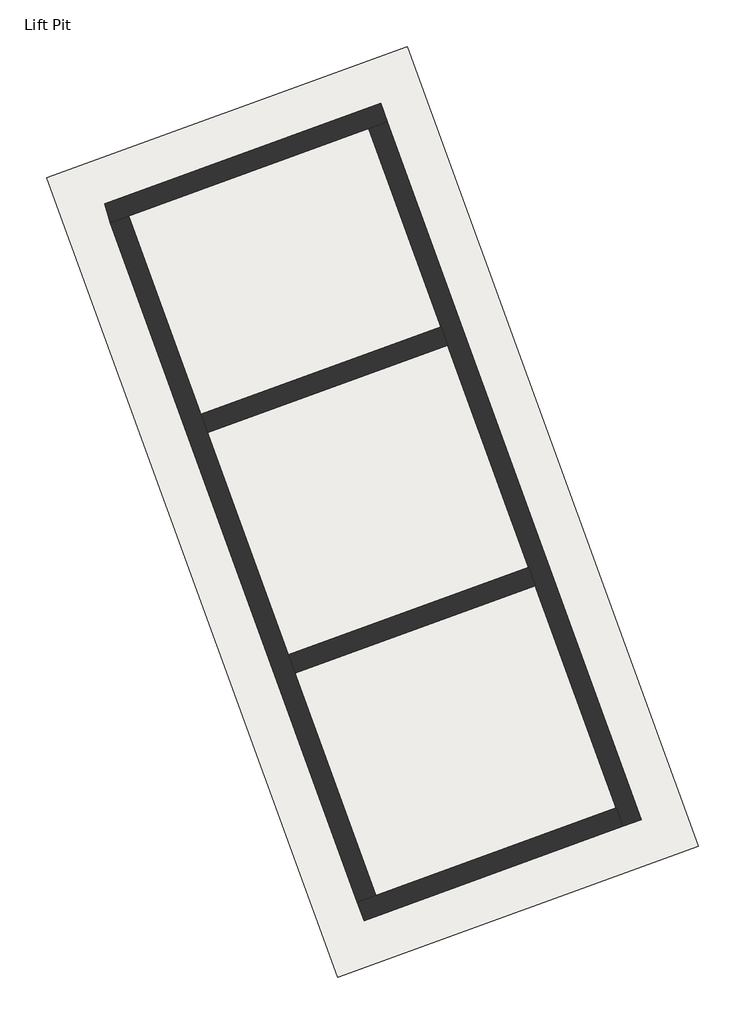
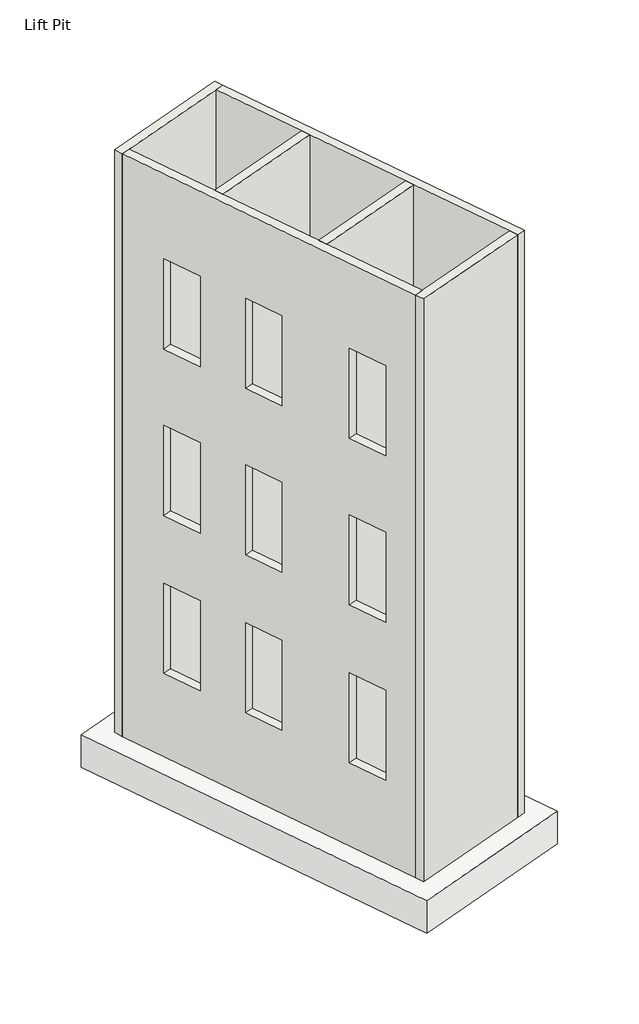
# One storey: 6 walls, 1 slab.
"""IFC4 building model written with IfcOpenShell, lengths in millimetres."""

from ifc_helpers import new_model, si_unit, frame, origin, place, context, project, spatial, polyline, outline, extrude, faceted_brep, element, save

model = new_model("IFC4")

# Units and contexts
model_context = context("Model", 3, world=origin())
ifc_project = project(units=[si_unit("LENGTHUNIT", "METRE", prefix="MILLI")], contexts=[model_context])

# Site, building, storey
site = spatial("IfcSite", under=ifc_project)
building = spatial("IfcBuilding", under=site)
storey = spatial("IfcBuildingStorey", under=building, Name="Lift Pit", Elevation=-1950.0)

# Slab
placement = place(None, origin())
element("IfcSlab", 1, ObjectType="30\" RC SLAB", at=placement, inside=storey, context=model_context, shape_type="SweptSolid", body=[
    extrude(outline(polyline([(38224.7247183, 10390.2706294), (41182.0702914, 2265.0304453), (37517.2690702, 931.1518864), (34559.9234972, 9056.3920706), (38224.7247183, 10390.2706294)])), frame((0.0, 0.0, -2712.0), z_axis=(0.0, 0.0, 1.0), x_axis=(1.0, 0.0, 0.0)), (0.0, 0.0, 1.0), 762.0),
])

# Walls
element("IfcWall", 2, ObjectType="RC WALL 200", at=placement, inside=storey, context=model_context, shape_type="Brep", body=[
    faceted_brep([(35205.0982701, 8599.5009317, -1950.0), (35393.0367939, 8667.9049602, -1950.0), (37836.2376079, 9557.1573328, -1950.0), (38024.1761321, 9625.5613614, -1950.0), (38024.1761321, 9625.5613614, 11700.0), (37836.2376079, 9557.1573328, 11700.0), (35393.0367939, 8667.9049602, 11700.0), (35205.0982701, 8599.5009317, 11700.0), (35153.1367317, 8793.4240329, -1950.0), (35153.1367317, 8793.4240329, 11700.0), (37955.7721034, 9813.4998856, 11700.0), (37955.7721034, 9813.4998856, -1950.0)], [[[0, 1, 2, 3, 4, 5, 6, 7]], [[8, 9, 10, 11]], [[3, 2, 1, 0, 8, 11]], [[7, 6, 5, 4, 10, 9]], [[0, 7, 9, 8]], [[4, 3, 11, 10]]]),
])
element("IfcWall", 3, ObjectType="RC WALL 200", at=placement, inside=storey, context=model_context, shape_type="Brep", body=[
    faceted_brep([(37836.2376079, 9557.1573328, -1950.0), (38570.0121342, 7541.1283909, -1950.0), (38638.4161628, 7353.1898667, -1950.0), (39459.2645067, 5097.9275768, -1950.0), (39527.6685354, 4909.9890526, -1950.0), (40348.9569947, 2653.5175556, -1950.0), (40417.3610234, 2465.5790315, -1950.0), (40417.3610234, 2465.5790315, 11700.0), (40348.9569947, 2653.5175556, 11700.0), (39527.6685354, 4909.9890526, 11700.0), (39459.2645067, 5097.9275768, 11700.0), (38638.4161628, 7353.1898667, 11700.0), (38570.0121342, 7541.1283909, 11700.0), (37836.2376079, 9557.1573328, 11700.0), (38024.1761321, 9625.5613614, -1950.0), (38024.1761321, 9625.5613614, 11700.0), (40605.2995475, 2533.9830601, 11700.0), (40605.2995475, 2533.9830601, -1950.0)], [[[0, 1, 2, 3, 4, 5, 6, 7, 8, 9, 10, 11, 12, 13]], [[14, 15, 16, 17]], [[6, 5, 4, 3, 2, 1, 0, 14, 17]], [[13, 12, 11, 10, 9, 8, 7, 16, 15]], [[0, 13, 15, 14]], [[7, 6, 17, 16]]]),
])
element("IfcWall", 4, ObjectType="RC WALL 200", at=placement, inside=storey, context=model_context, shape_type="Brep", body=[
    faceted_brep([(40348.9569947, 2653.5175556, -1950.0), (37905.7561806, 1764.2651831, -1950.0), (37717.8176565, 1695.8611544, -1950.0), (37717.8176565, 1695.8611544, 11700.0), (37905.7561806, 1764.2651831, 11700.0), (40348.9569947, 2653.5175556, 11700.0), (40417.3610234, 2465.5790315, -1950.0), (40417.3610234, 2465.5790315, 11700.0), (37786.2216851, 1507.9226302, 11700.0), (37786.2216851, 1507.9226302, -1950.0)], [[[0, 1, 2, 3, 4, 5]], [[6, 7, 8, 9]], [[2, 1, 0, 6, 9]], [[5, 4, 3, 8, 7]], [[0, 5, 7, 6]], [[3, 2, 9, 8]]]),
])
element("IfcWall", 5, ObjectType="RC WALL 200", at=placement, inside=storey, context=model_context, shape_type="Brep", body=[
    faceted_brep([(37905.7561806, 1764.2651831, -1950.0), (37084.4677213, 4020.73668, -1950.0), (37016.0636927, 4208.6752042, -1950.0), (36195.2153487, 6463.9374941, -1950.0), (36126.8113201, 6651.8760183, -1950.0), (35393.0367939, 8667.9049602, -1950.0), (35393.0367939, 8667.9049602, 11700.0), (36126.8113201, 6651.8760183, 11700.0), (36195.2153487, 6463.9374941, 11700.0), (37016.0636927, 4208.6752042, 11700.0), (37084.4677213, 4020.73668, 11700.0), (37905.7561806, 1764.2651831, 11700.0), (36058.4072915, 6839.8145422, 2110.0), (35747.1689611, 7694.9348271, 2110.0), (35747.1689611, 7694.9348271, 0.0), (36058.4072915, 6839.8145422, 0.0), (36759.5485852, 4913.4446698, 2110.0), (36448.3102548, 5768.5649548, 2110.0), (36448.3102548, 5768.5649548, 0.0), (36759.5485852, 4913.4446698, 0.0), (37648.4224802, 2471.2837143, 2110.0), (37337.1841498, 3326.4039992, 2110.0), (37337.1841498, 3326.4039992, 0.0), (37648.4224802, 2471.2837143, 0.0), (37648.4224802, 2471.2837143, 5805.0), (37337.1841498, 3326.4039992, 5805.0), (37337.1841498, 3326.4039992, 3695.0), (37648.4224802, 2471.2837143, 3695.0), (36759.5485852, 4913.4446698, 5805.0), (36448.3102548, 5768.5649548, 5805.0), (36448.3102548, 5768.5649548, 3695.0), (36759.5485852, 4913.4446698, 3695.0), (36058.4072915, 6839.8145422, 5805.0), (35747.1689611, 7694.9348271, 5805.0), (35747.1689611, 7694.9348271, 3695.0), (36058.4072915, 6839.8145422, 3695.0), (37648.4224802, 2471.2837143, 9705.0), (37337.1841498, 3326.4039992, 9705.0), (37337.1841498, 3326.4039992, 7595.0), (37648.4224802, 2471.2837143, 7595.0), (36759.5485852, 4913.4446698, 9705.0), (36448.3102548, 5768.5649548, 9705.0), (36448.3102548, 5768.5649548, 7595.0), (36759.5485852, 4913.4446698, 7595.0), (36058.4072915, 6839.8145422, 9705.0), (35747.1689611, 7694.9348271, 9705.0), (35747.1689611, 7694.9348271, 7595.0), (36058.4072915, 6839.8145422, 7595.0), (37717.8176565, 1695.8611544, -1950.0), (37717.8176565, 1695.8611544, 11700.0), (35205.0982697, 8599.5009315, 11700.0), (35205.0982697, 8599.5009315, -1950.0), (35870.4687673, 6771.4105136, 2110.0), (35870.4687673, 6771.4105136, 0.0), (35559.2304369, 7626.5307985, 0.0), (35559.2304369, 7626.5307985, 2110.0), (36571.610061, 4845.0406412, 2110.0), (36571.610061, 4845.0406412, 0.0), (36260.3717306, 5700.1609261, 0.0), (36260.3717306, 5700.1609261, 2110.0), (37460.483956, 2402.8796856, 2110.0), (37460.483956, 2402.8796856, 0.0), (37149.2456256, 3257.9999705, 0.0), (37149.2456256, 3257.9999705, 2110.0), (37460.483956, 2402.8796856, 5805.0), (37460.483956, 2402.8796856, 3695.0), (37149.2456256, 3257.9999705, 3695.0), (37149.2456256, 3257.9999705, 5805.0), (36571.610061, 4845.0406412, 5805.0), (36571.610061, 4845.0406412, 3695.0), (36260.3717306, 5700.1609261, 3695.0), (36260.3717306, 5700.1609261, 5805.0), (35870.4687673, 6771.4105136, 5805.0), (35870.4687673, 6771.4105136, 3695.0), (35559.2304369, 7626.5307985, 3695.0), (35559.2304369, 7626.5307985, 5805.0), (37460.483956, 2402.8796856, 9705.0), (37460.483956, 2402.8796856, 7595.0), (37149.2456256, 3257.9999705, 7595.0), (37149.2456256, 3257.9999705, 9705.0), (36571.610061, 4845.0406412, 9705.0), (36571.610061, 4845.0406412, 7595.0), (36260.3717306, 5700.1609261, 7595.0), (36260.3717306, 5700.1609261, 9705.0), (35870.4687673, 6771.4105136, 9705.0), (35870.4687673, 6771.4105136, 7595.0), (35559.2304369, 7626.5307985, 7595.0), (35559.2304369, 7626.5307985, 9705.0)], [[[0, 1, 2, 3, 4, 5, 6, 7, 8, 9, 10, 11], [12, 13, 14, 15], [16, 17, 18, 19], [20, 21, 22, 23], [24, 25, 26, 27], [28, 29, 30, 31], [32, 33, 34, 35], [36, 37, 38, 39], [40, 41, 42, 43], [44, 45, 46, 47]], [[48, 49, 50, 51], [52, 53, 54, 55], [56, 57, 58, 59], [60, 61, 62, 63], [64, 65, 66, 67], [68, 69, 70, 71], [72, 73, 74, 75], [76, 77, 78, 79], [80, 81, 82, 83], [84, 85, 86, 87]], [[5, 4, 3, 2, 1, 0, 48, 51]], [[11, 10, 9, 8, 7, 6, 50, 49]], [[0, 11, 49, 48]], [[53, 52, 12, 15]], [[54, 53, 15, 14]], [[55, 54, 14, 13]], [[52, 55, 13, 12]], [[57, 56, 16, 19]], [[58, 57, 19, 18]], [[59, 58, 18, 17]], [[56, 59, 17, 16]], [[61, 60, 20, 23]], [[62, 61, 23, 22]], [[63, 62, 22, 21]], [[60, 63, 21, 20]], [[65, 64, 24, 27]], [[66, 65, 27, 26]], [[67, 66, 26, 25]], [[64, 67, 25, 24]], [[69, 68, 28, 31]], [[70, 69, 31, 30]], [[71, 70, 30, 29]], [[68, 71, 29, 28]], [[73, 72, 32, 35]], [[74, 73, 35, 34]], [[75, 74, 34, 33]], [[72, 75, 33, 32]], [[77, 76, 36, 39]], [[78, 77, 39, 38]], [[79, 78, 38, 37]], [[76, 79, 37, 36]], [[81, 80, 40, 43]], [[82, 81, 43, 42]], [[83, 82, 42, 41]], [[80, 83, 41, 40]], [[85, 84, 44, 47]], [[86, 85, 47, 46]], [[87, 86, 46, 45]], [[84, 87, 45, 44]], [[5, 51, 50, 6]]]),
])
element("IfcWall", 6, ObjectType="RC WALL 200", at=placement, inside=storey, context=model_context, shape_type="SweptSolid", body=[
    extrude(outline(polyline([(38638.4161628, 7353.1898667), (36195.2153487, 6463.9374941), (36126.8113201, 6651.8760183), (38570.0121342, 7541.1283909), (38638.4161628, 7353.1898667)])), frame((0.0, 0.0, -1950.0), z_axis=(0.0, 0.0, 1.0), x_axis=(1.0, 0.0, 0.0)), (0.0, 0.0, 1.0), 13650.0),
])
element("IfcWall", 7, ObjectType="RC WALL 200", at=placement, inside=storey, context=model_context, shape_type="SweptSolid", body=[
    extrude(outline(polyline([(39527.6685354, 4909.9890526), (37084.4677213, 4020.73668), (37016.0636927, 4208.6752042), (39459.2645067, 5097.9275768), (39527.6685354, 4909.9890526)])), frame((0.0, 0.0, -1950.0), z_axis=(0.0, 0.0, 1.0), x_axis=(1.0, 0.0, 0.0)), (0.0, 0.0, 1.0), 13650.0),
])

save(model, "model.ifc")
